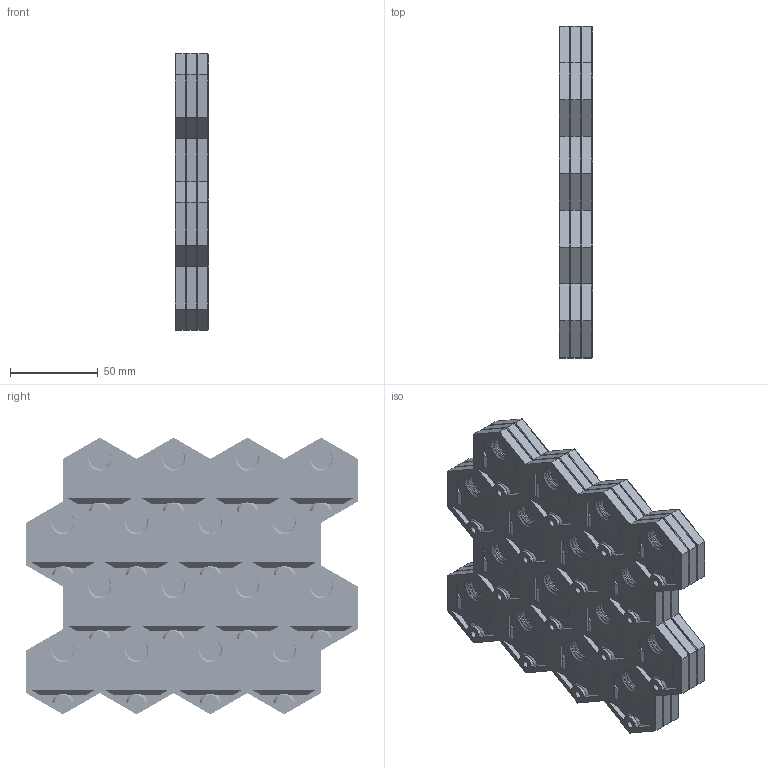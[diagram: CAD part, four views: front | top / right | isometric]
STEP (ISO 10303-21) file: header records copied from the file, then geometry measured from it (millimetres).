
FILE_DESCRIPTION(/* description */ ('','CAx-IF Rec.Pracs.---Representation and Presentation of Product Manufacturing Information (PMI)---4.0---2014-10-13'),/* implementation_level */ '2;1');
FILE_NAME(/* name */ 'GOEWS 4x4 Tile Stack with 0.4mm Spacer.step',/* time_stamp */ '2024-11-29T15:40:54-05:00',/* author */ (''),/* organization */ (''),/* preprocessor_version */ 'ST-DEVELOPER v20',/* originating_system */ 'Autodesk Translation Framework v13.20.0.188',/* authorisation */ '');
FILE_SCHEMA (('AP242_MANAGED_MODEL_BASED_3D_ENGINEERING_MIM_LF { 1 0 10303 442 1 1 4 }'));
Products named in the file (1): GOEWS Parametric Tile Stack with Spacer
Bounding box: 18.8 x 189 x 157.62 mm (x, y, z)
Volume: 239412.6 mm3; surface area: 265148.9 mm2
Topology: 5 solids, 5 shells, 2605 faces, 7155 edges, 4608 vertices
Faces by surface type: plane 1789, cylinder 576, cone 144, bspline 96
Full cylindrical faces by diameter (mm): 4 x48, 8 x48, 12.322 x96, 14.55 x96
Entity records: 137753 total; most frequent: CARTESIAN_POINT 73409, ORIENTED_EDGE 14310, DIRECTION 11695, EDGE_CURVE 7155, LINE 5139, VECTOR 5139, VERTEX_POINT 4608, AXIS2_PLACEMENT_3D 3278
